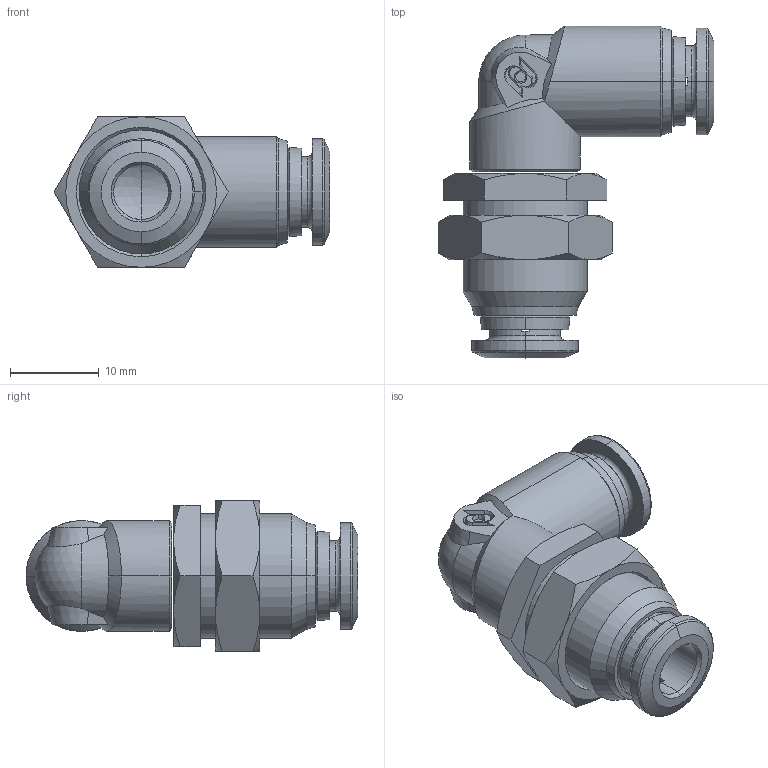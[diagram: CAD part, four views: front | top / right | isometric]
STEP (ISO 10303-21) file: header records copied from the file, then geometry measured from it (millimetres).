
FILE_DESCRIPTION (( 'STEP AP214' ), '1' );
FILE_NAME ('40060V0004.STEP', '2016-05-24T09:43:16', ( '' ), ( '' ), 'SwSTEP 2.0', 'SolidWorks 2016', '' );
FILE_SCHEMA (( 'AUTOMOTIVE_DESIGN' ));
Length unit declared in the file: millimetre
Products named in the file (1): 40060V0004
Bounding box: 31.11 x 37.45 x 17 mm (x, y, z)
Surface area: 3793.2 mm2 (no closed solid volume)
Topology: 0 solids, 7 shells, 162 faces, 446 edges, 294 vertices
Faces by surface type: cone 63, plane 58, cylinder 28, torus 8, bspline 4, sphere 1
Entity records: 7482 total; most frequent: CARTESIAN_POINT 1663, DIRECTION 835, ORIENTED_EDGE 800, EDGE_CURVE 446, AXIS2_PLACEMENT_3D 330, VERTEX_POINT 294, EDGE_LOOP 182, VECTOR 175
